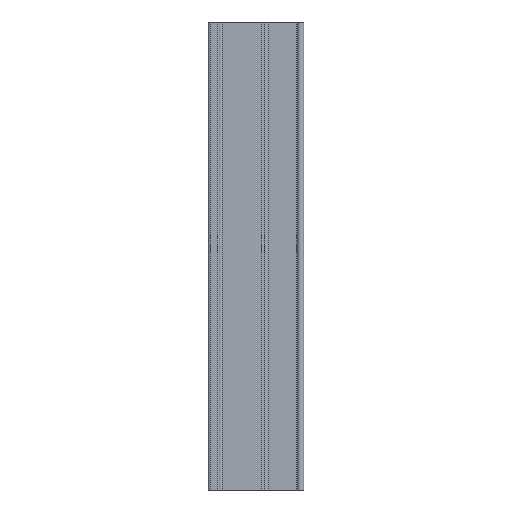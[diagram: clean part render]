
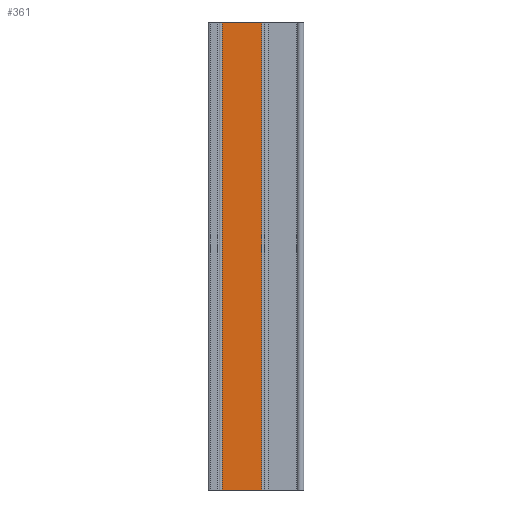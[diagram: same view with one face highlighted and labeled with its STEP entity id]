
A CAD part, left-side view. The second image highlights one B-rep face of the part: STEP entity #361.
In plain terms, the highlighted planar face has unit normal (-1, 0, 0).
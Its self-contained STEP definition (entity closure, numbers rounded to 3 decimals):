
#303=CARTESIAN_POINT('',(-4.,-3.,200.0));
#304=VERTEX_POINT('',#303);
#312=CARTESIAN_POINT('',(-4.,-3.,0.0));
#313=VERTEX_POINT('',#312);
#314=CARTESIAN_POINT('',(-4.,-3.,0.0));
#315=DIRECTION('',(0.0,0.0,1.0));
#316=VECTOR('',#315,200.0);
#317=LINE('',#314,#316);
#318=EDGE_CURVE('',#313,#304,#317,.T.);
#331=CARTESIAN_POINT('',(-4.,-3.,0.0));
#332=DIRECTION('',(-1.0,0.0,0.0));
#333=DIRECTION('',(0.0,0.0,1.0));
#334=AXIS2_PLACEMENT_3D('',#331,#332,#333);
#335=PLANE('',#334);
#336=CARTESIAN_POINT('',(-4.,14.,200.0));
#337=VERTEX_POINT('',#336);
#338=CARTESIAN_POINT('',(-4.,-3.,200.0));
#339=DIRECTION('',(0.0,1.0,0.0));
#340=VECTOR('',#339,17.);
#341=LINE('',#338,#340);
#342=EDGE_CURVE('',#304,#337,#341,.T.);
#343=ORIENTED_EDGE('',*,*,#342,.T.);
#344=CARTESIAN_POINT('',(-4.,14.,0.0));
#345=VERTEX_POINT('',#344);
#346=CARTESIAN_POINT('',(-4.,14.,0.0));
#347=DIRECTION('',(0.0,0.0,1.0));
#348=VECTOR('',#347,200.0);
#349=LINE('',#346,#348);
#350=EDGE_CURVE('',#345,#337,#349,.T.);
#351=ORIENTED_EDGE('',*,*,#350,.F.);
#352=CARTESIAN_POINT('',(-4.,14.,0.0));
#353=DIRECTION('',(0.0,-1.0,0.0));
#354=VECTOR('',#353,17.);
#355=LINE('',#352,#354);
#356=EDGE_CURVE('',#345,#313,#355,.T.);
#357=ORIENTED_EDGE('',*,*,#356,.T.);
#358=ORIENTED_EDGE('',*,*,#318,.T.);
#359=EDGE_LOOP('',(#343,#351,#357,#358));
#360=FACE_OUTER_BOUND('',#359,.T.);
#361=ADVANCED_FACE('',(#360),#335,.T.);
